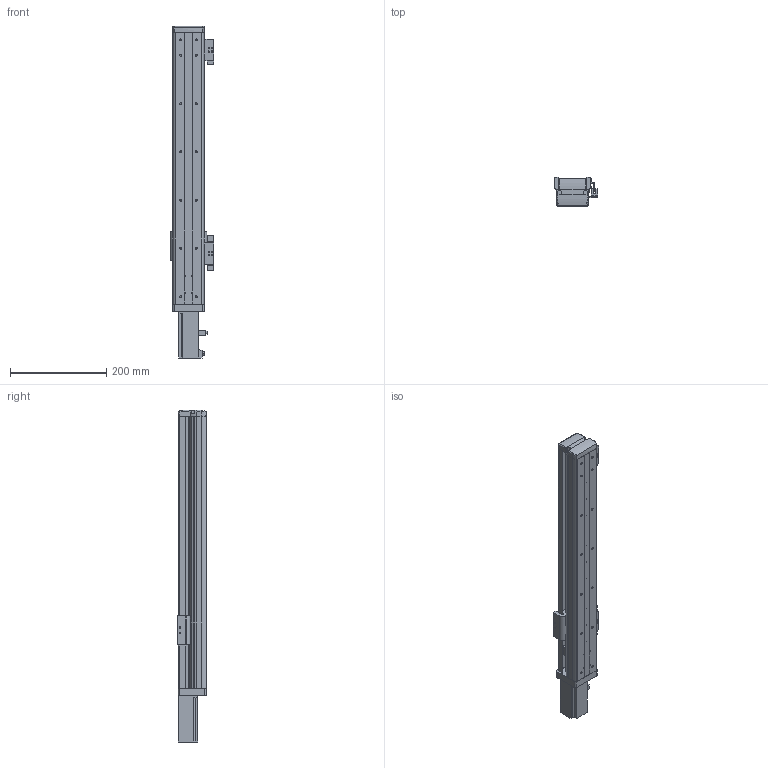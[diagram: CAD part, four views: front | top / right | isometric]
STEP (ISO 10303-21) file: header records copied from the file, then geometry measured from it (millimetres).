
FILE_DESCRIPTION (( 'STEP AP203' ), '1' );
FILE_NAME ('EXT65A-S400.STEP', '2015-12-15T08:38:13', ( 'QQ' ), ( '' ), 'SwSTEP 2.0', 'SolidWorks 2013', '' );
FILE_SCHEMA (( 'CONFIG_CONTROL_DESIGN' ));
Length unit declared in the file: millimetre
Products named in the file (1): EXT65A-S400
Bounding box: 90.5 x 60 x 688.5 mm (x, y, z)
Volume: 1203483.9 mm3; surface area: 454599 mm2
Topology: 22 solids, 22 shells, 948 faces, 2507 edges, 1658 vertices
Faces by surface type: cylinder 482, plane 416, bspline 38, cone 12
Entity records: 32390 total; most frequent: CARTESIAN_POINT 7792, DIRECTION 5243, ORIENTED_EDGE 5012, EDGE_CURVE 2506, AXIS2_PLACEMENT_3D 1931, VERTEX_POINT 1658, LINE 1381, VECTOR 1381
